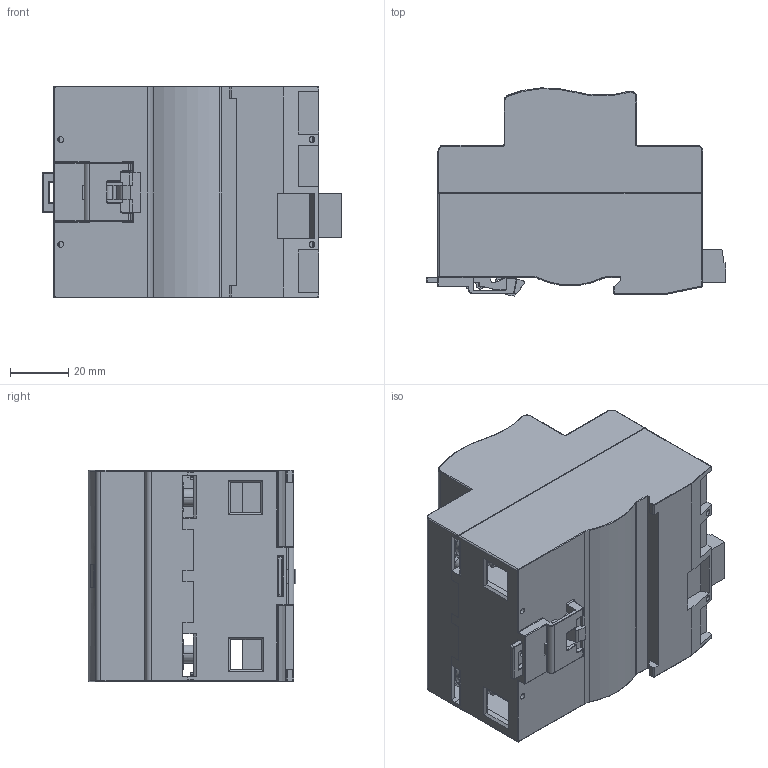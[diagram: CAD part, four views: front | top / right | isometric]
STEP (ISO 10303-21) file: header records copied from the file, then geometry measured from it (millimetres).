
FILE_DESCRIPTION(('CoCreate Modeling STEP Export'),'2;1');
FILE_NAME('dvsb-4-rc.stp','2015-04-29T12:55:40',(''),(''),'CoCreate Modeling STEP processor for AP203 (Solid Model)','CoCreate Modeling 17.0B 09-Oct-2010 (C) Parametric Technology GmbH','');
FILE_SCHEMA(('CONFIG_CONTROL_DESIGN'));
Length unit declared in the file: millimetre
Products named in the file (15): Skin_Group1; p1; p2; p3; p4; p5; p6; Skin_Group2; p7; p8; p9; p10; p11; p12; dvsb-4-rc
Assembly tree (14 placements, depth 2):
  dvsb-4-rc
    p12
    p11
    p10
    p9
    p8
    p7
    Skin_Group2
    p6
    p5
    p4
    p3
    p2
    p1
    Skin_Group1
Bounding box: 102.8 x 71.39 x 72.52 mm (x, y, z)
Volume: 71430.7 mm3; surface area: 86803.7 mm2
Topology: 14 solids, 14 shells, 1920 faces, 5288 edges, 3451 vertices
Faces by surface type: plane 1319, cylinder 339, torus 163, cone 66, bspline 17, sphere 16
Entity records: 63229 total; most frequent: CARTESIAN_POINT 13420, ORIENTED_EDGE 10576, DIRECTION 9507, EDGE_CURVE 5288, VECTOR 3895, LINE 3895, VERTEX_POINT 3457, AXIS2_PLACEMENT_3D 2806
